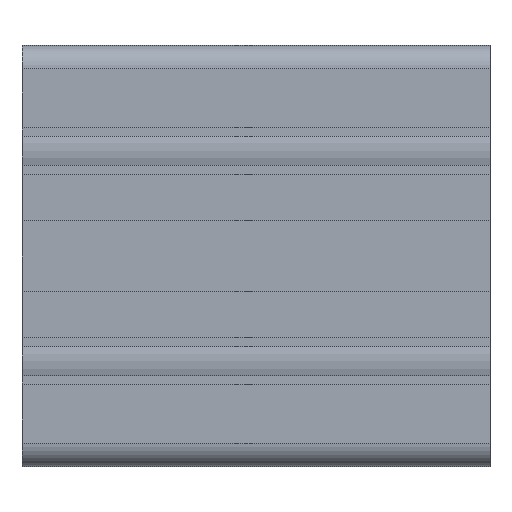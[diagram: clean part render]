
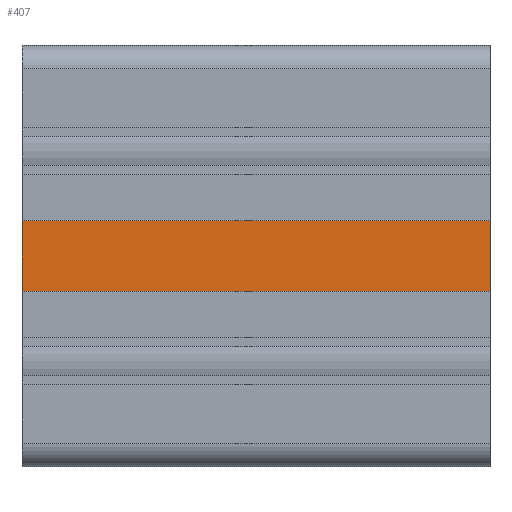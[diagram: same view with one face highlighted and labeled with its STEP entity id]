
A CAD part, left-side view. The second image highlights one B-rep face of the part: STEP entity #407.
In plain terms, the highlighted planar face has unit normal (-1, 0, 0).
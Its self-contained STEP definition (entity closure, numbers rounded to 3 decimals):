
#407 = ADVANCED_FACE ( 'NONE', ( #4525 ), #1236, .F. ) ;
#897 = VECTOR ( 'NONE', #1139, 1000. ) ;
#1139 = DIRECTION ( 'NONE',  ( 0., -1., 0. ) ) ;
#1236 = PLANE ( 'NONE',  #4204 ) ;
#1247 = CARTESIAN_POINT ( 'NONE',  ( -43.996, 50., -7.5 ) ) ;
#1341 = CARTESIAN_POINT ( 'NONE',  ( -43.996, 50., -7.5 ) ) ;
#1769 = ORIENTED_EDGE ( 'NONE', *, *, #2258, .T. ) ;
#1827 = ORIENTED_EDGE ( 'NONE', *, *, #4485, .F. ) ;
#2015 = VERTEX_POINT ( 'NONE', #4113 ) ;
#2168 = CARTESIAN_POINT ( 'NONE',  ( -43.996, 50., 7.5 ) ) ;
#2201 = VECTOR ( 'NONE', #4216, 1000. ) ;
#2258 = EDGE_CURVE ( 'NONE', #4598, #2790, #3784, .T. ) ;
#2790 = VERTEX_POINT ( 'NONE', #8980 ) ;
#2912 = DIRECTION ( 'NONE',  ( 0., 0., -1. ) ) ;
#3311 = ORIENTED_EDGE ( 'NONE', *, *, #4173, .T. ) ;
#3784 = LINE ( 'NONE', #1247, #897 ) ;
#4113 = CARTESIAN_POINT ( 'NONE',  ( -43.996, -50., 7.5 ) ) ;
#4173 = EDGE_CURVE ( 'NONE', #2790, #2015, #9867, .T. ) ;
#4204 = AXIS2_PLACEMENT_3D ( 'NONE', #4470, #7800, #2912 ) ;
#4216 = DIRECTION ( 'NONE',  ( 0., 0., 1. ) ) ;
#4470 = CARTESIAN_POINT ( 'NONE',  ( -43.996, 50., 7.5 ) ) ;
#4485 = EDGE_CURVE ( 'NONE', #9380, #2015, #9533, .T. ) ;
#4525 = FACE_OUTER_BOUND ( 'NONE', #8863, .T. ) ;
#4598 = VERTEX_POINT ( 'NONE', #1341 ) ;
#5078 = VECTOR ( 'NONE', #7922, 1000. ) ;
#5135 = EDGE_CURVE ( 'NONE', #4598, #9380, #7537, .T. ) ;
#5243 = CARTESIAN_POINT ( 'NONE',  ( -43.996, 50., 7.5 ) ) ;
#5432 = VECTOR ( 'NONE', #8110, 1000. ) ;
#7537 = LINE ( 'NONE', #5243, #2201 ) ;
#7800 = DIRECTION ( 'NONE',  ( 1., 0., 0. ) ) ;
#7922 = DIRECTION ( 'NONE',  ( 0., -1., 0. ) ) ;
#8110 = DIRECTION ( 'NONE',  ( 0., 0., 1. ) ) ;
#8863 = EDGE_LOOP ( 'NONE', ( #3311, #1827, #9185, #1769 ) ) ;
#8977 = CARTESIAN_POINT ( 'NONE',  ( -43.996, -50., 7.5 ) ) ;
#8980 = CARTESIAN_POINT ( 'NONE',  ( -43.996, -50., -7.5 ) ) ;
#9185 = ORIENTED_EDGE ( 'NONE', *, *, #5135, .F. ) ;
#9380 = VERTEX_POINT ( 'NONE', #9749 ) ;
#9533 = LINE ( 'NONE', #2168, #5078 ) ;
#9749 = CARTESIAN_POINT ( 'NONE',  ( -43.996, 50., 7.5 ) ) ;
#9867 = LINE ( 'NONE', #8977, #5432 ) ;
